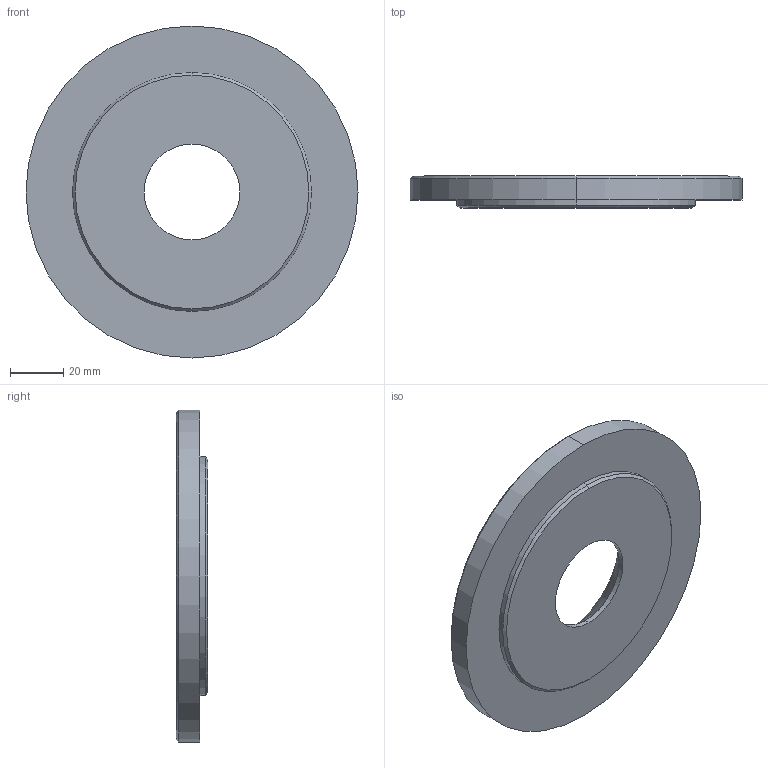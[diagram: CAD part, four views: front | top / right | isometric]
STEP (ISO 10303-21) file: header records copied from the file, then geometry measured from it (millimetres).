
FILE_DESCRIPTION (( 'STEP AP214' ), '1' );
FILE_NAME ('BRLRS-125x36x12.STEP', '2020-02-05T09:36:15', ( 'August' ), ( '' ), 'SwSTEP 2.0', 'SolidWorks 2018', '' );
FILE_SCHEMA (( 'AUTOMOTIVE_DESIGN' ));
Length unit declared in the file: millimetre
Products named in the file (1): BRLRS-125x36x12
Bounding box: 125 x 12 x 125 mm (x, y, z)
Volume: 110279.6 mm3; surface area: 27317 mm2
Topology: 1 solids, 1 shells, 15 faces, 30 edges, 18 vertices
Faces by surface type: cone 6, cylinder 6, plane 3
Entity records: 432 total; most frequent: DIRECTION 80, CARTESIAN_POINT 64, ORIENTED_EDGE 60, AXIS2_PLACEMENT_3D 34, EDGE_CURVE 30, VERTEX_POINT 18, EDGE_LOOP 18, CIRCLE 18
